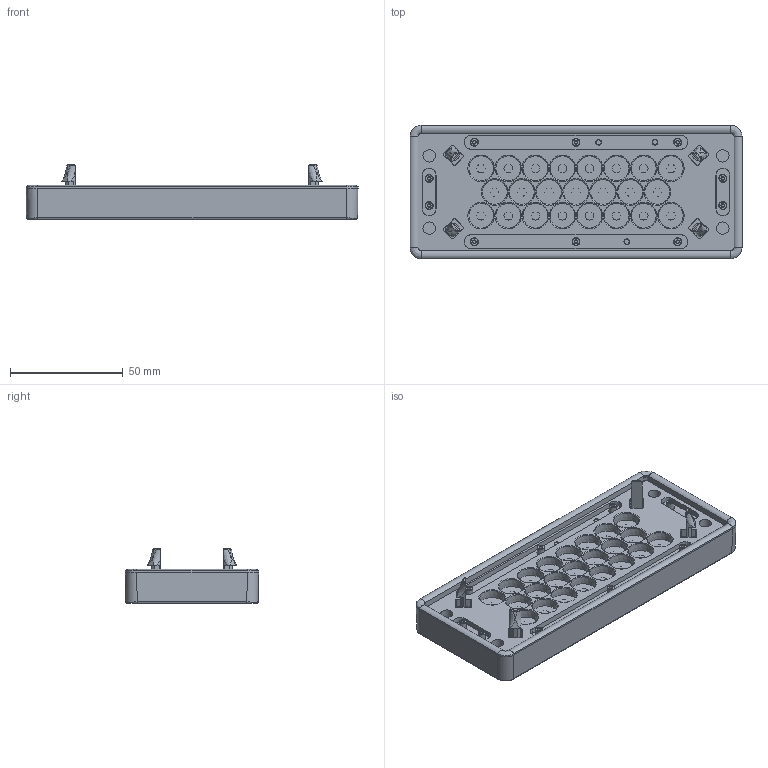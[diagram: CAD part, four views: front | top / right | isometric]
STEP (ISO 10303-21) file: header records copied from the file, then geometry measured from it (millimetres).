
FILE_DESCRIPTION(/* description */ (''),/* implementation_level */ '2;1');
FILE_NAME(/* name */ 'KDP-N-24-23.stp',/* time_stamp */ '2020-06-11T19:06:35+08:00',/* author */ (''),/* organization */ (''),/* preprocessor_version */ 'ST-DEVELOPER v16.7',/* originating_system */ 'SIEMENS PLM Software NX 12.0',/* authorisation */ '');
FILE_SCHEMA (('AP203_CONFIGURATION_CONTROLLED_3D_DESIGN_OF_MECHANICAL_PARTS_AND_ASSEMBLIES_MIM_LF { 1 0 10303 403 2 1 2}'));
Products named in the file (1): 91472A882D21ql45
Bounding box: 147 x 59 x 24 mm (x, y, z)
Volume: 72754.2 mm3; surface area: 45770.6 mm2
Topology: 1 solids, 5 shells, 1515 faces, 3937 edges, 2567 vertices
Faces by surface type: plane 658, cylinder 228, extrusion 224, bspline 176, cone 130, torus 99
Full cylindrical faces by diameter (mm): 2.5 x3, 3.5 x10, 5.5 x8, 9 x27
Entity records: 58844 total; most frequent: CARTESIAN_POINT 16439, ORIENTED_EDGE 7162, DIRECTION 5999, EDGE_CURVE 3581, VERTEX_POINT 2424, AXIS2_PLACEMENT_3D 2044, EDGE_LOOP 1949, VECTOR 1911
